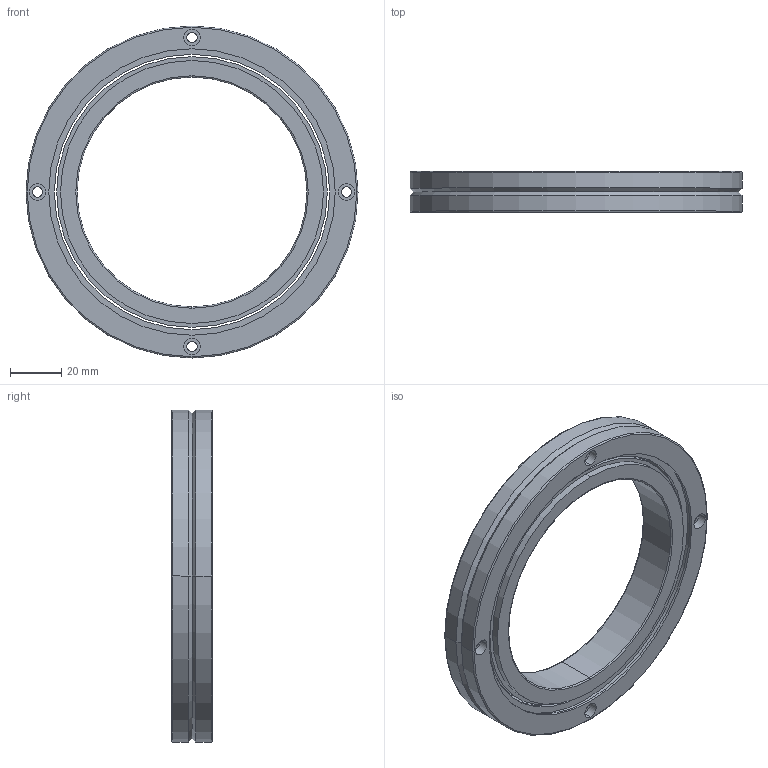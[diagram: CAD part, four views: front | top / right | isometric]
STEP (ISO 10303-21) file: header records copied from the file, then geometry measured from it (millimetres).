
FILE_DESCRIPTION((''),'2;1');
FILE_NAME('RB9016','2014-12-22T',('Administrator'),(''),'PRO/ENGINEER BY PARAMETRIC TECHNOLOGY CORPORATION, 2010180','PRO/ENGINEER BY PARAMETRIC TECHNOLOGY CORPORATION, 2010180','');
FILE_SCHEMA(('AUTOMOTIVE_DESIGN_CC2 { 1 2 10303 214 -1 1 5 2 }'));
Length unit declared in the file: millimetre
Products named in the file (1): RB9016
Bounding box: 130 x 16 x 130 mm (x, y, z)
Volume: 86368.8 mm3; surface area: 38989.2 mm2
Topology: 2 solids, 2 shells, 88 faces, 184 edges, 114 vertices
Faces by surface type: cylinder 50, plane 18, cone 12, torus 8
Entity records: 2497 total; most frequent: DIRECTION 482, CARTESIAN_POINT 386, ORIENTED_EDGE 368, AXIS2_PLACEMENT_3D 210, EDGE_CURVE 184, CIRCLE 122, VERTEX_POINT 114, EDGE_LOOP 114
